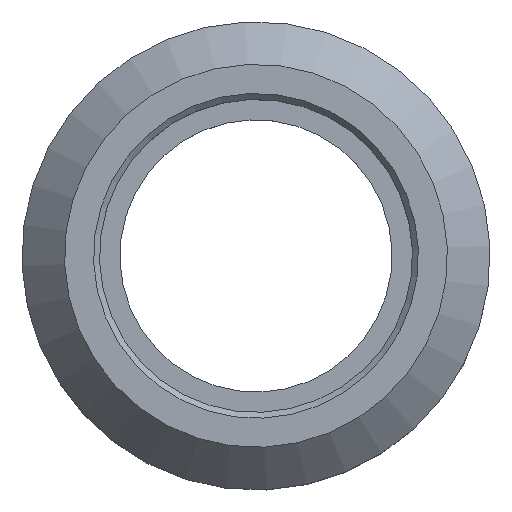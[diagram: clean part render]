
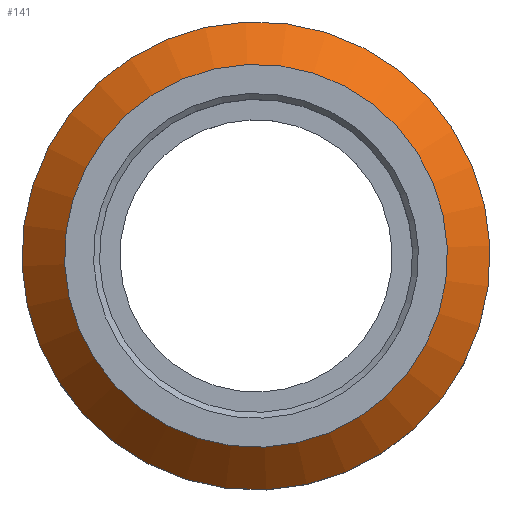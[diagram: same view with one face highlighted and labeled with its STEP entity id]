
A CAD part, top view. The second image highlights one B-rep face of the part: STEP entity #141.
In plain terms, the highlighted conical face has half-angle 45 degrees and reference radius 11.945 mm.
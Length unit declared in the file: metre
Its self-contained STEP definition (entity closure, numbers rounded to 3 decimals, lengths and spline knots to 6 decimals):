
#38=ORIENTED_EDGE('',*,*,#55,.F.);
#39=ORIENTED_EDGE('',*,*,#54,.T.);
#54=EDGE_CURVE('',#66,#66,#78,.T.);
#55=EDGE_CURVE('',#67,#67,#79,.T.);
#66=VERTEX_POINT('',#262);
#67=VERTEX_POINT('',#265);
#78=CIRCLE('',#176,0.011945);
#79=CIRCLE('',#178,0.00977);
#98=EDGE_LOOP('',(#38));
#99=EDGE_LOOP('',(#39));
#122=FACE_BOUND('',#98,.T.);
#123=FACE_BOUND('',#99,.T.);
#131=CONICAL_SURFACE('',#177,0.011945,0.785);
#141=ADVANCED_FACE('',(#122,#123),#131,.T.);
#176=AXIS2_PLACEMENT_3D('',#261,#221,#222);
#177=AXIS2_PLACEMENT_3D('',#263,#223,#224);
#178=AXIS2_PLACEMENT_3D('',#264,#225,#226);
#221=DIRECTION('',(0.,0.,1.));
#222=DIRECTION('',(0.924,0.383,0.));
#223=DIRECTION('',(0.,0.,-1.));
#224=DIRECTION('',(-0.924,-0.383,0.));
#225=DIRECTION('',(0.,0.,1.));
#226=DIRECTION('',(0.924,0.383,0.));
#261=CARTESIAN_POINT('',(-0.075677,0.034798,0.199701));
#262=CARTESIAN_POINT('',(-0.064643,0.039374,0.199701));
#263=CARTESIAN_POINT('',(-0.075677,0.034798,0.199701));
#264=CARTESIAN_POINT('',(-0.075677,0.034798,0.201876));
#265=CARTESIAN_POINT('',(-0.066652,0.038541,0.201876));
